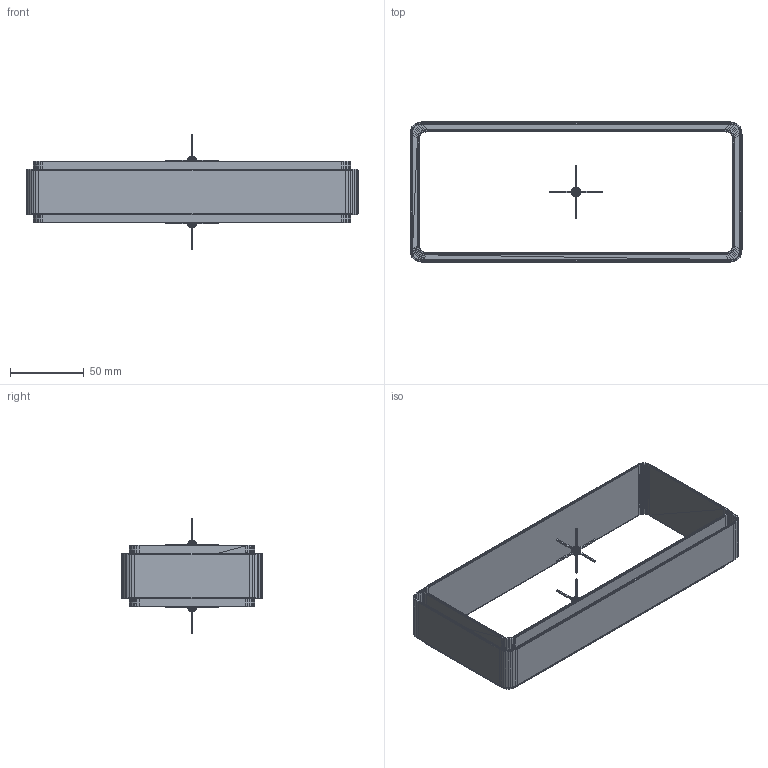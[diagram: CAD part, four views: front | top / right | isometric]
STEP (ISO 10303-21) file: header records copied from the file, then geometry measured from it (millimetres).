
FILE_DESCRIPTION(('FreeCAD Model'),'2;1');
FILE_NAME('Open CASCADE Shape Model','2024-04-12T13:17:23',('Author'),( ''),'Open CASCADE STEP processor 7.6','FreeCAD','Unknown');
FILE_SCHEMA(('AUTOMOTIVE_DESIGN { 1 0 10303 214 1 1 1 1 }'));
Length unit declared in the file: millimetre
Products named in the file (4): Unnamed; M2CKCF06_902980297_v010 (Solid); M2CKCF06_902980297_v011 (Solid); M2CKCF06_902980297_v012 (Solid)
Assembly tree (3 placements, depth 2):
  Unnamed
    M2CKCF06_902980297_v010 (Solid)
    M2CKCF06_902980297_v011 (Solid)
    M2CKCF06_902980297_v012 (Solid)
Bounding box: 225 x 95 x 78.42 mm (x, y, z)
Volume: 77173.8 mm3; surface area: 93404.7 mm2
Topology: 3 solids, 3 shells, 4889 faces, 7786 edges, 2904 vertices
Faces by surface type: plane 4889
Entity records: 99536 total; most frequent: DIRECTION 17572, CARTESIAN_POINT 15583, ORIENTED_EDGE 15572, EDGE_CURVE 7786, LINE 7786, VECTOR 7786, AXIS2_PLACEMENT_3D 4893, FACE_BOUND 4892
